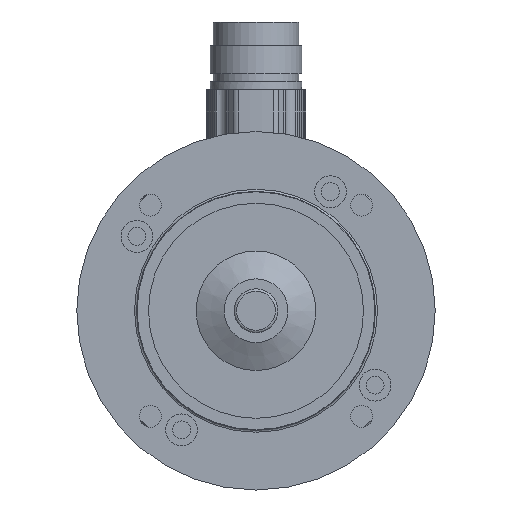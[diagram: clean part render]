
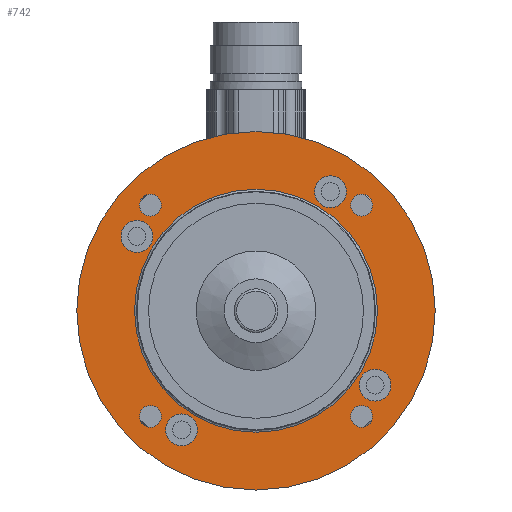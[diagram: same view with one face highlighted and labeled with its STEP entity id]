
A CAD part, front view. The second image highlights one B-rep face of the part: STEP entity #742.
In plain terms, the highlighted planar face has unit normal (0, -1, 0) as drawn and (0, 0, 1) by its records, which use the part's own axes.
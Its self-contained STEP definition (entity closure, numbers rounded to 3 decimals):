
#340=PLANE('',#4610);
#436=FACE_BOUND('',#1402,.T.);
#437=FACE_BOUND('',#1403,.T.);
#438=FACE_BOUND('',#1404,.T.);
#439=FACE_BOUND('',#1405,.T.);
#440=FACE_BOUND('',#1406,.T.);
#441=FACE_BOUND('',#1407,.T.);
#442=FACE_BOUND('',#1408,.T.);
#443=FACE_BOUND('',#1409,.T.);
#444=FACE_BOUND('',#1410,.T.);
#742=ADVANCED_FACE('',(#436,#437,#438,#439,#440,#441,#442,#443,#444,#1196),
#340,.T.);
#1196=FACE_OUTER_BOUND('',#1411,.T.);
#1402=EDGE_LOOP('',(#2249));
#1403=EDGE_LOOP('',(#2250));
#1404=EDGE_LOOP('',(#2251));
#1405=EDGE_LOOP('',(#2252));
#1406=EDGE_LOOP('',(#2253));
#1407=EDGE_LOOP('',(#2254));
#1408=EDGE_LOOP('',(#2255));
#1409=EDGE_LOOP('',(#2256));
#1410=EDGE_LOOP('',(#2257));
#1411=EDGE_LOOP('',(#2258));
#2249=ORIENTED_EDGE('',*,*,#3715,.T.);
#2250=ORIENTED_EDGE('',*,*,#3716,.T.);
#2251=ORIENTED_EDGE('',*,*,#3717,.T.);
#2252=ORIENTED_EDGE('',*,*,#3718,.T.);
#2253=ORIENTED_EDGE('',*,*,#3719,.T.);
#2254=ORIENTED_EDGE('',*,*,#3720,.F.);
#2255=ORIENTED_EDGE('',*,*,#3721,.F.);
#2256=ORIENTED_EDGE('',*,*,#3722,.F.);
#2257=ORIENTED_EDGE('',*,*,#3723,.F.);
#2258=ORIENTED_EDGE('',*,*,#3724,.F.);
#3301=VERTEX_POINT('',#6788);
#3302=VERTEX_POINT('',#6790);
#3303=VERTEX_POINT('',#6792);
#3304=VERTEX_POINT('',#6794);
#3305=VERTEX_POINT('',#6796);
#3306=VERTEX_POINT('',#6798);
#3307=VERTEX_POINT('',#6800);
#3308=VERTEX_POINT('',#6802);
#3309=VERTEX_POINT('',#6804);
#3310=VERTEX_POINT('',#6806);
#3715=EDGE_CURVE('',#3301,#3301,#4235,.T.);
#3716=EDGE_CURVE('',#3302,#3302,#4236,.T.);
#3717=EDGE_CURVE('',#3303,#3303,#4237,.T.);
#3718=EDGE_CURVE('',#3304,#3304,#4238,.T.);
#3719=EDGE_CURVE('',#3305,#3305,#4239,.T.);
#3720=EDGE_CURVE('',#3306,#3306,#4240,.T.);
#3721=EDGE_CURVE('',#3307,#3307,#4241,.T.);
#3722=EDGE_CURVE('',#3308,#3308,#4242,.T.);
#3723=EDGE_CURVE('',#3309,#3309,#4243,.T.);
#3724=EDGE_CURVE('',#3310,#3310,#4244,.T.);
#4235=CIRCLE('',#4600,30.5);
#4236=CIRCLE('',#4601,4.);
#4237=CIRCLE('',#4602,4.);
#4238=CIRCLE('',#4603,4.);
#4239=CIRCLE('',#4604,4.);
#4240=CIRCLE('',#4605,2.75);
#4241=CIRCLE('',#4606,2.75);
#4242=CIRCLE('',#4607,2.75);
#4243=CIRCLE('',#4608,2.75);
#4244=CIRCLE('',#4609,45.);
#4600=AXIS2_PLACEMENT_3D('',#6787,#5286,#5287);
#4601=AXIS2_PLACEMENT_3D('',#6789,#5288,#5289);
#4602=AXIS2_PLACEMENT_3D('',#6791,#5290,#5291);
#4603=AXIS2_PLACEMENT_3D('',#6793,#5292,#5293);
#4604=AXIS2_PLACEMENT_3D('',#6795,#5294,#5295);
#4605=AXIS2_PLACEMENT_3D('',#6797,#5296,#5297);
#4606=AXIS2_PLACEMENT_3D('',#6799,#5298,#5299);
#4607=AXIS2_PLACEMENT_3D('',#6801,#5300,#5301);
#4608=AXIS2_PLACEMENT_3D('',#6803,#5302,#5303);
#4609=AXIS2_PLACEMENT_3D('',#6805,#5304,#5305);
#4610=AXIS2_PLACEMENT_3D('',#6807,#5306,#5307);
#5286=DIRECTION('',(0.,0.,-1.));
#5287=DIRECTION('',(1.,0.,0.));
#5288=DIRECTION('',(0.,0.,-1.));
#5289=DIRECTION('',(0.,-1.,0.));
#5290=DIRECTION('',(0.,0.,-1.));
#5291=DIRECTION('',(1.,0.,0.));
#5292=DIRECTION('',(0.,0.,-1.));
#5293=DIRECTION('',(0.,1.,0.));
#5294=DIRECTION('',(0.,0.,-1.));
#5295=DIRECTION('',(-1.,0.,0.));
#5296=DIRECTION('',(0.,0.,1.));
#5297=DIRECTION('',(1.,0.,0.));
#5298=DIRECTION('',(0.,0.,1.));
#5299=DIRECTION('',(1.,0.,0.));
#5300=DIRECTION('',(0.,0.,1.));
#5301=DIRECTION('',(1.,0.,0.));
#5302=DIRECTION('',(0.,0.,1.));
#5303=DIRECTION('',(1.,0.,0.));
#5304=DIRECTION('',(0.,0.,-1.));
#5305=DIRECTION('',(-1.,0.,0.));
#5306=DIRECTION('',(0.,0.,1.));
#5307=DIRECTION('',(1.,0.,0.));
#6787=CARTESIAN_POINT('',(0.,0.,8.));
#6788=CARTESIAN_POINT('',(30.5,0.,8.));
#6789=CARTESIAN_POINT('',(18.68,29.894,8.));
#6790=CARTESIAN_POINT('',(18.68,25.894,8.));
#6791=CARTESIAN_POINT('',(-29.894,18.68,8.));
#6792=CARTESIAN_POINT('',(-25.894,18.68,8.));
#6793=CARTESIAN_POINT('',(-18.68,-29.894,8.));
#6794=CARTESIAN_POINT('',(-18.68,-25.894,8.));
#6795=CARTESIAN_POINT('',(29.894,-18.68,8.));
#6796=CARTESIAN_POINT('',(25.894,-18.68,8.));
#6797=CARTESIAN_POINT('',(26.517,26.517,8.));
#6798=CARTESIAN_POINT('',(29.267,26.517,8.));
#6799=CARTESIAN_POINT('',(-26.517,26.517,8.));
#6800=CARTESIAN_POINT('',(-23.767,26.517,8.));
#6801=CARTESIAN_POINT('',(-26.517,-26.517,8.));
#6802=CARTESIAN_POINT('',(-23.767,-26.517,8.));
#6803=CARTESIAN_POINT('',(26.517,-26.517,8.));
#6804=CARTESIAN_POINT('',(29.267,-26.517,8.));
#6805=CARTESIAN_POINT('',(0.,0.,8.));
#6806=CARTESIAN_POINT('',(-45.,0.,8.));
#6807=CARTESIAN_POINT('',(0.,0.,8.));
